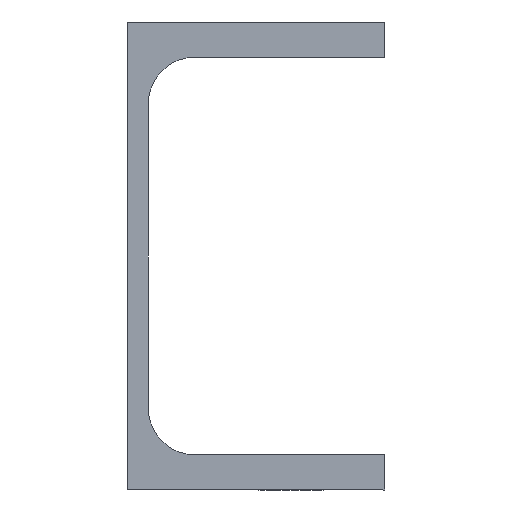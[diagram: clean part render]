
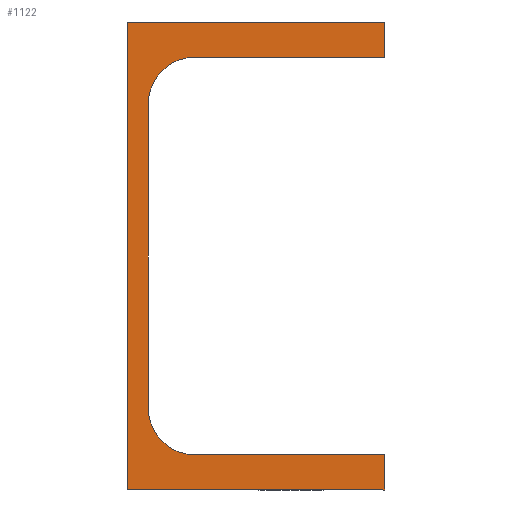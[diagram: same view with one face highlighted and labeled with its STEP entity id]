
A CAD part, left-side view. The second image highlights one B-rep face of the part: STEP entity #1122.
In plain terms, the highlighted planar face has unit normal (-1, 0, 0).
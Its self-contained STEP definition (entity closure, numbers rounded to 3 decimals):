
#345 = EDGE_CURVE ( 'NONE', #2037, #356, #2468, .T. ) ;
#356 = VERTEX_POINT ( 'NONE', #659 ) ;
#429 = DIRECTION ( 'NONE',  ( -1., 0., 0. ) ) ;
#464 = EDGE_CURVE ( 'NONE', #2672, #2403, #853, .T. ) ;
#528 = CARTESIAN_POINT ( 'NONE',  ( 6000., 2000., 2290. ) ) ;
#559 = EDGE_CURVE ( 'NONE', #2944, #1308, #2851, .T. ) ;
#630 = CARTESIAN_POINT ( 'NONE',  ( 6000., 1985.5, 2382.5 ) ) ;
#657 = DIRECTION ( 'NONE',  ( 0., 0., 1. ) ) ;
#659 = CARTESIAN_POINT ( 'NONE',  ( 6000., 1985.5, 2297.5 ) ) ;
#668 = AXIS2_PLACEMENT_3D ( 'NONE', #1915, #429, #1111 ) ;
#709 = CARTESIAN_POINT ( 'NONE',  ( 6000., 2000., 2390. ) ) ;
#759 = EDGE_CURVE ( 'NONE', #1308, #2058, #970, .T. ) ;
#853 = LINE ( 'NONE', #3056, #2723 ) ;
#886 = EDGE_CURVE ( 'NONE', #356, #2672, #1382, .T. ) ;
#915 = DIRECTION ( 'NONE',  ( -1., 0., 0. ) ) ;
#966 = AXIS2_PLACEMENT_3D ( 'NONE', #1880, #915, #657 ) ;
#970 = CIRCLE ( 'NONE', #966, 10. ) ;
#1100 = EDGE_CURVE ( 'NONE', #1791, #1505, #2354, .T. ) ;
#1111 = DIRECTION ( 'NONE',  ( 0., 0., 1. ) ) ;
#1116 = ORIENTED_EDGE ( 'NONE', *, *, #1100, .F. ) ;
#1122 = ADVANCED_FACE ( 'NONE', ( #1600 ), #2593, .T. ) ;
#1134 = VECTOR ( 'NONE', #1136, 1000. ) ;
#1136 = DIRECTION ( 'NONE',  ( 0., -1., 0. ) ) ;
#1187 = DIRECTION ( 'NONE',  ( 0., -1., 0. ) ) ;
#1223 = ORIENTED_EDGE ( 'NONE', *, *, #1350, .F. ) ;
#1242 = ORIENTED_EDGE ( 'NONE', *, *, #345, .F. ) ;
#1257 = LINE ( 'NONE', #2546, #2458 ) ;
#1308 = VERTEX_POINT ( 'NONE', #2972 ) ;
#1350 = EDGE_CURVE ( 'NONE', #1505, #2944, #2604, .T. ) ;
#1368 = CARTESIAN_POINT ( 'NONE',  ( 6000., 1945., 2382.5 ) ) ;
#1375 = DIRECTION ( 'NONE',  ( 0., 0., 1. ) ) ;
#1382 = LINE ( 'NONE', #2374, #1849 ) ;
#1505 = VERTEX_POINT ( 'NONE', #1874 ) ;
#1534 = DIRECTION ( 'NONE',  ( 0., 1., 0. ) ) ;
#1554 = CARTESIAN_POINT ( 'NONE',  ( 6000., 2000., 2390. ) ) ;
#1600 = FACE_OUTER_BOUND ( 'NONE', #3001, .T. ) ;
#1708 = ORIENTED_EDGE ( 'NONE', *, *, #1823, .F. ) ;
#1750 = DIRECTION ( 'NONE',  ( 0., 0., -1. ) ) ;
#1778 = VERTEX_POINT ( 'NONE', #528 ) ;
#1785 = ORIENTED_EDGE ( 'NONE', *, *, #759, .F. ) ;
#1791 = VERTEX_POINT ( 'NONE', #1554 ) ;
#1801 = EDGE_CURVE ( 'NONE', #2058, #2037, #1257, .T. ) ;
#1823 = EDGE_CURVE ( 'NONE', #2403, #1778, #3012, .T. ) ;
#1849 = VECTOR ( 'NONE', #1187, 1000. ) ;
#1870 = CARTESIAN_POINT ( 'NONE',  ( 6000., 1945., 2290. ) ) ;
#1874 = CARTESIAN_POINT ( 'NONE',  ( 6000., 1945., 2390. ) ) ;
#1880 = CARTESIAN_POINT ( 'NONE',  ( 6000., 1985.5, 2372.5 ) ) ;
#1915 = CARTESIAN_POINT ( 'NONE',  ( 6000., 1985.5, 2307.5 ) ) ;
#1928 = CARTESIAN_POINT ( 'NONE',  ( 6000., 1995.5, 2372.5 ) ) ;
#1977 = ORIENTED_EDGE ( 'NONE', *, *, #2867, .F. ) ;
#1989 = VECTOR ( 'NONE', #2649, 1000. ) ;
#2035 = DIRECTION ( 'NONE',  ( 0., 0., -1. ) ) ;
#2037 = VERTEX_POINT ( 'NONE', #2130 ) ;
#2058 = VERTEX_POINT ( 'NONE', #1928 ) ;
#2130 = CARTESIAN_POINT ( 'NONE',  ( 6000., 1995.5, 2307.5 ) ) ;
#2150 = VECTOR ( 'NONE', #1534, 1000. ) ;
#2320 = DIRECTION ( 'NONE',  ( -1., 0., 0. ) ) ;
#2354 = LINE ( 'NONE', #3062, #1134 ) ;
#2362 = CARTESIAN_POINT ( 'NONE',  ( 6000., 1945., 2382.5 ) ) ;
#2370 = ORIENTED_EDGE ( 'NONE', *, *, #886, .F. ) ;
#2374 = CARTESIAN_POINT ( 'NONE',  ( 6000., 1945., 2297.5 ) ) ;
#2403 = VERTEX_POINT ( 'NONE', #1870 ) ;
#2411 = ORIENTED_EDGE ( 'NONE', *, *, #464, .F. ) ;
#2416 = ORIENTED_EDGE ( 'NONE', *, *, #1801, .F. ) ;
#2458 = VECTOR ( 'NONE', #1750, 1000. ) ;
#2468 = CIRCLE ( 'NONE', #668, 10. ) ;
#2508 = CARTESIAN_POINT ( 'NONE',  ( 6000., 2000., 2290. ) ) ;
#2546 = CARTESIAN_POINT ( 'NONE',  ( 6000., 1995.5, 2307.5 ) ) ;
#2593 = PLANE ( 'NONE',  #2892 ) ;
#2604 = LINE ( 'NONE', #1368, #1989 ) ;
#2649 = DIRECTION ( 'NONE',  ( 0., 0., -1. ) ) ;
#2672 = VERTEX_POINT ( 'NONE', #2782 ) ;
#2699 = LINE ( 'NONE', #709, #2788 ) ;
#2723 = VECTOR ( 'NONE', #2035, 1000. ) ;
#2782 = CARTESIAN_POINT ( 'NONE',  ( 6000., 1945., 2297.5 ) ) ;
#2788 = VECTOR ( 'NONE', #2958, 1000. ) ;
#2851 = LINE ( 'NONE', #630, #3193 ) ;
#2867 = EDGE_CURVE ( 'NONE', #1778, #1791, #2699, .T. ) ;
#2892 = AXIS2_PLACEMENT_3D ( 'NONE', #3094, #2320, #1375 ) ;
#2944 = VERTEX_POINT ( 'NONE', #2362 ) ;
#2958 = DIRECTION ( 'NONE',  ( 0., 0., 1. ) ) ;
#2969 = ORIENTED_EDGE ( 'NONE', *, *, #559, .F. ) ;
#2972 = CARTESIAN_POINT ( 'NONE',  ( 6000., 1985.5, 2382.5 ) ) ;
#3001 = EDGE_LOOP ( 'NONE', ( #1116, #1977, #1708, #2411, #2370, #1242, #2416, #1785, #2969, #1223 ) ) ;
#3012 = LINE ( 'NONE', #2508, #2150 ) ;
#3056 = CARTESIAN_POINT ( 'NONE',  ( 6000., 1945., 2290. ) ) ;
#3062 = CARTESIAN_POINT ( 'NONE',  ( 6000., 1945., 2390. ) ) ;
#3094 = CARTESIAN_POINT ( 'NONE',  ( 6000., 1985.5, 2307.5 ) ) ;
#3153 = DIRECTION ( 'NONE',  ( 0., 1., 0. ) ) ;
#3193 = VECTOR ( 'NONE', #3153, 1000. ) ;
